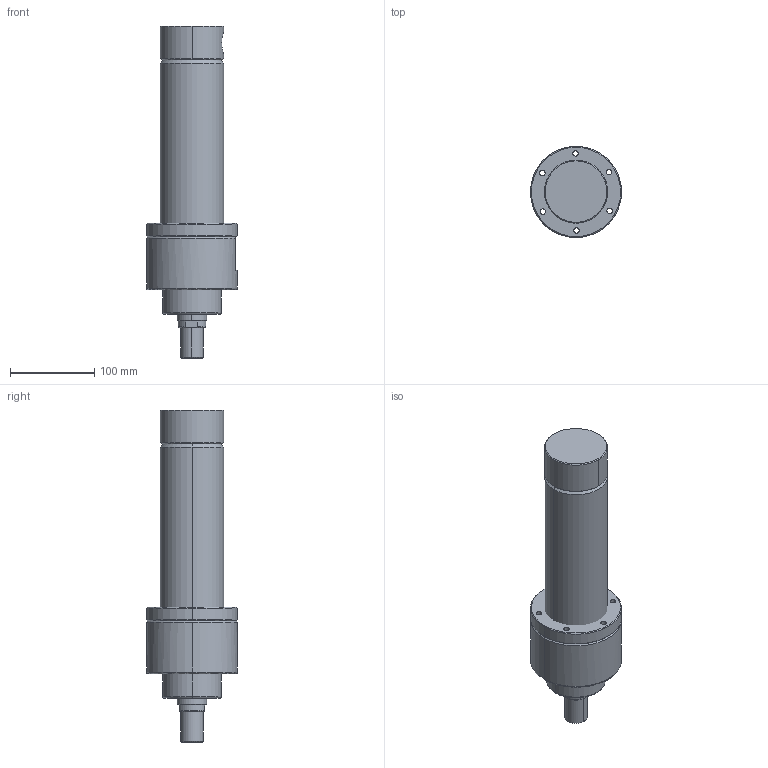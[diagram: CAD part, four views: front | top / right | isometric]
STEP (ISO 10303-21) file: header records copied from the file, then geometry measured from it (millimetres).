
FILE_DESCRIPTION (( 'STEP AP214' ), '1' );
FILE_NAME ('63-35-150-WEB.STEP', '2021-01-13T12:15:49', ( 'cagdas' ), ( '' ), 'SwSTEP 2.0', 'SolidWorks 2021', '' );
FILE_SCHEMA (( 'AUTOMOTIVE_DESIGN' ));
Length unit declared in the file: millimetre
Products named in the file (6): 63x75_BORU_WEB; 35_K_MIL_WEB; TYAK_63_75; 63-35-150-WEB; 63_Gerdirme _Flansý; 63_36_CETOP_烰_KAPAK
Assembly tree (5 placements, depth 2):
  63-35-150-WEB
    63x75_BORU_WEB
    TYAK_63_75
    63_36_CETOP_烰_KAPAK
    63_Gerdirme _Flansý
    35_K_MIL_WEB
Bounding box: 107.99 x 107.99 x 394 mm (x, y, z)
Volume: 1278765.9 mm3; surface area: 234150.8 mm2
Topology: 5 solids, 5 shells, 377 faces, 925 edges, 590 vertices
Faces by surface type: plane 120, cylinder 102, bspline 87, cone 64, torus 4
Entity records: 17222 total; most frequent: CARTESIAN_POINT 8400, ORIENTED_EDGE 1850, DIRECTION 1528, EDGE_CURVE 925, VERTEX_POINT 590, AXIS2_PLACEMENT_3D 575, EDGE_LOOP 443, LINE 378
